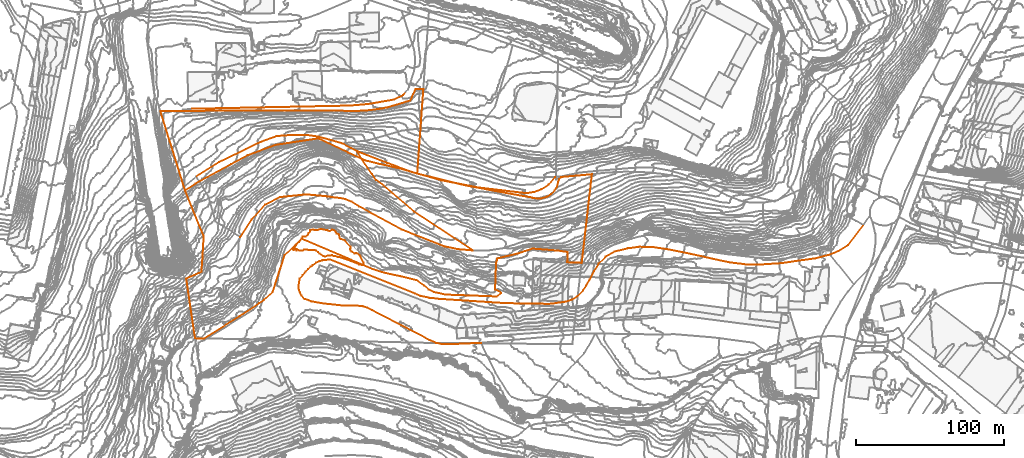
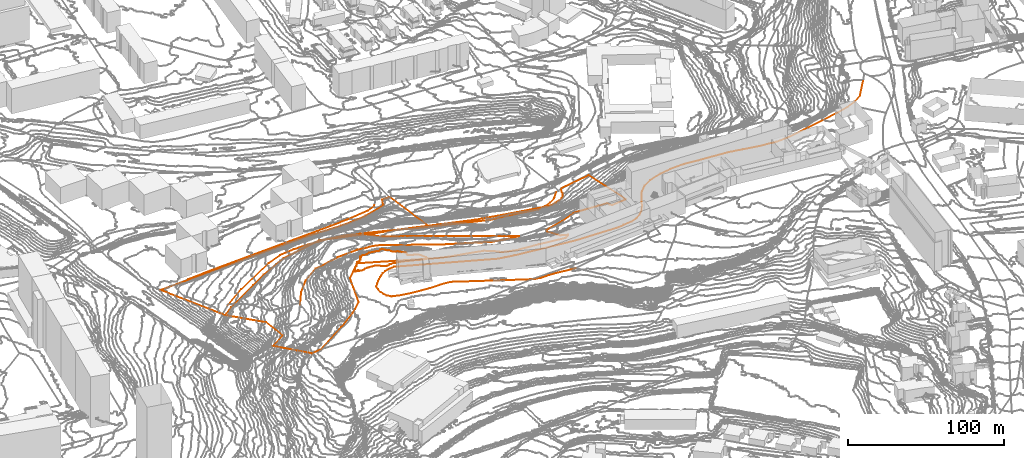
# Not in any storey, part 206 of 419: 11 proxies.
"""IFC2X3 model written with IfcOpenShell, lengths in metres."""

from ifc_helpers import new_model, entity, si_unit, frame, origin_with_axes, place, context, subcontext, project, element, save


model = new_model("IFC2X3")

# Units and contexts
model_context = context("Model", 3, precision=1e-05, world=origin_with_axes())
body_context = subcontext(model_context, "Body", "Model", "MODEL_VIEW")
ifc_project = project(units=[si_unit("AREAUNIT", "SQUARE_METRE"), si_unit("LENGTHUNIT", "METRE")], contexts=[model_context])

# Proxies
proxy_1_placement = place(None, frame((356.4920204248, 395.6976909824, 58.4), z_axis=(0.0, 0.0, 1.0), x_axis=(1.0, 0.0, 0.0)))
element("IfcBuildingElementProxy", 1, at=proxy_1_placement, Name="Route 78", ObjectType="NOTDEFINED", context=body_context, shape_type="GeometricCurveSet", body=[
    entity("IfcGeometricCurveSet", [entity("IfcPolyline", [entity("IfcCartesianPoint", [98.6, -36.5999999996, -1.6]), entity("IfcCartesianPoint", [88.4, -35.7000000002, -1.3]), entity("IfcCartesianPoint", [79.4, -33.8999999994, -1.1]), entity("IfcCartesianPoint", [50.2999999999, -22.3999999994, 0.1]), entity("IfcCartesianPoint", [21.6, -6.7999999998, 0.2]), entity("IfcCartesianPoint", [16.6, -3.7000000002, 0.2]), entity("IfcCartesianPoint", [12.4, -1.8999999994, 0.1]), entity("IfcCartesianPoint", [8.6, -1.0999999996, 0.1]), entity("IfcCartesianPoint", [5.7999999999, -0.8999999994, 0.0]), entity("IfcCartesianPoint", [0.0, 0.0, 0.0])])]),
])
proxy_2_placement = place(None, frame((265.2920204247, 454.8976909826, 31.4), z_axis=(0.0, 0.0, 1.0), x_axis=(1.0, 0.0, 0.0)))
element("IfcBuildingElementProxy", 2, at=proxy_2_placement, Name="Route 170", ObjectType="NOTDEFINED", context=body_context, shape_type="GeometricCurveSet", body=[
    entity("IfcGeometricCurveSet", [entity("IfcPolyline", [entity("IfcCartesianPoint", [143.9, 10.7999999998, 1.6]), entity("IfcCartesianPoint", [142.5, 9.0999999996, 1.8]), entity("IfcCartesianPoint", [136.4, 6.2000000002, 2.2]), entity("IfcCartesianPoint", [119.4, 3.2000000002, 2.9]), entity("IfcCartesianPoint", [106.8, 2.0999999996, 3.1]), entity("IfcCartesianPoint", [16.8, 0.2999999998, 0.8]), entity("IfcCartesianPoint", [0.0, 0.0, 0.0])])]),
])
proxy_3_placement = place(None, frame((297.8920204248, 368.1976909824, 52.9), z_axis=(0.0, 0.0, 1.0), x_axis=(1.0, 0.0, 0.0)))
element("IfcBuildingElementProxy", 3, at=proxy_3_placement, Name="Route 175", ObjectType="NOTDEFINED", context=body_context, shape_type="GeometricCurveSet", body=[
    entity("IfcGeometricCurveSet", [entity("IfcPolyline", [entity("IfcCartesianPoint", [58.6, 27.5, 5.5]), entity("IfcCartesianPoint", [44.6, 28.7999999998, 3.8]), entity("IfcCartesianPoint", [27.0, 27.0, 2.0]), entity("IfcCartesianPoint", [16.7, 21.9000000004, -0.5]), entity("IfcCartesianPoint", [7.6, 11.7000000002, 0.0]), entity("IfcCartesianPoint", [0.0, 0.0, 0.0])])]),
])
proxy_4_placement = place(None, frame((268.1920204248, 409.1976909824, 37.9), z_axis=(0.0, 0.0, 1.0), x_axis=(1.0, 0.0, 0.0)))
element("IfcBuildingElementProxy", 4, at=proxy_4_placement, Name="Route 178", ObjectType="NOTDEFINED", context=body_context, shape_type="GeometricCurveSet", body=[
    entity("IfcGeometricCurveSet", [entity("IfcPolyline", [entity("IfcCartesianPoint", [0.0, 0.0, 0.0]), entity("IfcCartesianPoint", [15.4, 9.7000000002, 1.0]), entity("IfcCartesianPoint", [43.5, 23.2999999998, 3.4]), entity("IfcCartesianPoint", [54.2000000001, 27.2000000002, 3.5]), entity("IfcCartesianPoint", [64.7000000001, 28.0, 3.9]), entity("IfcCartesianPoint", [75.4, 27.7999999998, 4.1]), entity("IfcCartesianPoint", [81.8, 26.9000000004, 4.4]), entity("IfcCartesianPoint", [87.5, 25.5, 5.1]), entity("IfcCartesianPoint", [98.7000000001, 22.2000000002, 6.3])])]),
])
proxy_5_placement = place(None, frame((337.3920204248, 333.3976909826, 69.8), z_axis=(0.0, 0.0, 1.0), x_axis=(1.0, 0.0, 0.0)))
element("IfcBuildingElementProxy", 5, at=proxy_5_placement, Name="Route 181", ObjectType="NOTDEFINED", context=body_context, shape_type="GeometricCurveSet", body=[
    entity("IfcGeometricCurveSet", [entity("IfcPolyline", [entity("IfcCartesianPoint", [381.5, 42.9000000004, 6.2]), entity("IfcCartesianPoint", [371.2, 29.4000000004, 5.8]), entity("IfcCartesianPoint", [364.8999999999, 25.4000000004, 5.5]), entity("IfcCartesianPoint", [358.1, 22.7000000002, 5.5]), entity("IfcCartesianPoint", [348.8999999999, 20.4000000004, 5.3]), entity("IfcCartesianPoint", [325.8999999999, 17.0999999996, 4.2]), entity("IfcCartesianPoint", [311.7, 16.2000000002, 2.4]), entity("IfcCartesianPoint", [302.1, 16.2999999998, 1.8]), entity("IfcCartesianPoint", [291.6, 17.5999999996, 1.7]), entity("IfcCartesianPoint", [279.5, 20.0999999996, 1.5]), entity("IfcCartesianPoint", [270.0, 22.2999999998, 1.3]), entity("IfcCartesianPoint", [249.8999999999, 26.4000000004, -0.6]), entity("IfcCartesianPoint", [239.2, 28.0, -1.0]), entity("IfcCartesianPoint", [230.3999999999, 28.2000000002, -1.6]), entity("IfcCartesianPoint", [222.6, 27.2000000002, -1.9]), entity("IfcCartesianPoint", [213.5, 25.0, -2.4]), entity("IfcCartesianPoint", [207.5, 21.5999999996, -2.5]), entity("IfcCartesianPoint", [202.7999999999, 16.7999999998, -2.5]), entity("IfcCartesianPoint", [199.5, 11.7000000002, -2.5]), entity("IfcCartesianPoint", [196.6, 6.2000000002, -2.5]), entity("IfcCartesianPoint", [194.2999999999, 2.0, -2.5]), entity("IfcCartesianPoint", [192.0, -1.4000000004, -2.5]), entity("IfcCartesianPoint", [188.2999999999, -5.0999999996, -2.5]), entity("IfcCartesianPoint", [184.7999999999, -7.5, -2.5]), entity("IfcCartesianPoint", [180.2999999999, -8.9000000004, -2.5]), entity("IfcCartesianPoint", [174.1, -9.7999999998, -2.5]), entity("IfcCartesianPoint", [169.1, -10.4000000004, -2.5]), entity("IfcCartesianPoint", [139.2999999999, -9.9000000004, -2.2]), entity("IfcCartesianPoint", [94.8999999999, -7.0, -0.3]), entity("IfcCartesianPoint", [88.3999999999, -6.2999999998, 0.0]), entity("IfcCartesianPoint", [82.3999999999, -5.0, 0.0]), entity("IfcCartesianPoint", [78.5, -3.4000000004, 0.1]), entity("IfcCartesianPoint", [21.2999999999, 19.5999999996, 0.4]), entity("IfcCartesianPoint", [16.2999999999, 19.0999999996, 0.4]), entity("IfcCartesianPoint", [14.1, 18.5, 0.2]), entity("IfcCartesianPoint", [11.6, 17.4000000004, 0.1]), entity("IfcCartesianPoint", [9.5, 15.7000000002, 0.0]), entity("IfcCartesianPoint", [8.1, 14.7000000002, 0.0]), entity("IfcCartesianPoint", [6.2, 13.0, 0.0]), entity("IfcCartesianPoint", [4.7, 11.4000000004, 0.0]), entity("IfcCartesianPoint", [2.7, 9.0999999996, 0.0]), entity("IfcCartesianPoint", [0.7, 6.7000000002, 0.0]), entity("IfcCartesianPoint", [0.1, 3.5999999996, 0.0]), entity("IfcCartesianPoint", [0.0, 0.0, 0.0]), entity("IfcCartesianPoint", [0.7999999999, -2.5999999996, -0.2]), entity("IfcCartesianPoint", [1.7999999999, -4.5999999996, -0.5]), entity("IfcCartesianPoint", [3.8999999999, -7.0, -0.5]), entity("IfcCartesianPoint", [8.7999999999, -8.7000000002, -0.5]), entity("IfcCartesianPoint", [15.0, -9.9000000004, -0.5]), entity("IfcCartesianPoint", [29.6, -11.5, -0.4]), entity("IfcCartesianPoint", [37.6, -11.4000000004, -0.4]), entity("IfcCartesianPoint", [43.0, -12.0, -0.3]), entity("IfcCartesianPoint", [46.2, -12.9000000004, -0.3]), entity("IfcCartesianPoint", [49.5, -14.7000000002, -0.3]), entity("IfcCartesianPoint", [88.6, -34.9000000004, 0.0]), entity("IfcCartesianPoint", [92.7999999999, -36.7000000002, 0.0]), entity("IfcCartesianPoint", [96.6, -37.5, 0.0]), entity("IfcCartesianPoint", [100.7999999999, -37.5, 0.0]), entity("IfcCartesianPoint", [105.5, -37.5, 0.0]), entity("IfcCartesianPoint", [123.1, -36.7000000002, -2.2])])]),
])
proxy_6_placement = place(None, frame((376.6920204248, 426.1976909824, 45.5), z_axis=(0.0, 0.0, 1.0), x_axis=(1.0, 0.0, 0.0)))
element("IfcBuildingElementProxy", 6, at=proxy_6_placement, Name="Route 232", ObjectType="NOTDEFINED", context=body_context, shape_type="GeometricCurveSet", body=[
    entity("IfcGeometricCurveSet", [entity("IfcPolyline", [entity("IfcCartesianPoint", [78.4, -67.0999999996, 11.3]), entity("IfcCartesianPoint", [38.6, -40.8999999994, 9.1]), entity("IfcCartesianPoint", [23.5, -27.8999999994, 6.6]), entity("IfcCartesianPoint", [17.9, -23.0999999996, 5.7]), entity("IfcCartesianPoint", [13.0, -19.3999999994, 4.7]), entity("IfcCartesianPoint", [10.4, -15.5999999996, 3.5]), entity("IfcCartesianPoint", [7.4, -11.5, 2.0]), entity("IfcCartesianPoint", [0.0, 0.0, 0.0])])]),
])
proxy_7_placement = place(None, frame((376.6920204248, 426.1976909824, 45.5), z_axis=(0.0, 0.0, 1.0), x_axis=(1.0, 0.0, 0.0)))
element("IfcBuildingElementProxy", 7, at=proxy_7_placement, Name="Route 236", ObjectType="NOTDEFINED", context=body_context, shape_type="GeometricCurveSet", body=[
    entity("IfcGeometricCurveSet", [entity("IfcPolyline", [entity("IfcCartesianPoint", [0.0, 0.0, 0.0]), entity("IfcCartesianPoint", [20.4, -7.8999999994, 0.4]), entity("IfcCartesianPoint", [37.3, -14.2000000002, 0.3]), entity("IfcCartesianPoint", [57.3, -19.7000000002, -0.7]), entity("IfcCartesianPoint", [81.6, -24.5, -3.0]), entity("IfcCartesianPoint", [114.2000000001, -28.3999999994, -3.9]), entity("IfcCartesianPoint", [119.9, -27.5999999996, -3.8]), entity("IfcCartesianPoint", [124.8, -25.7000000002, -3.8]), entity("IfcCartesianPoint", [129.5, -22.7000000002, -3.9]), entity("IfcCartesianPoint", [133.8, -17.3999999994, -3.9])])]),
])
proxy_8_placement = place(None, frame((366.8920204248, 431.3976909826, 44.2), z_axis=(0.0, 0.0, 1.0), x_axis=(1.0, 0.0, 0.0)))
element("IfcBuildingElementProxy", 8, at=proxy_8_placement, Name="Route 237", ObjectType="NOTDEFINED", context=body_context, shape_type="GeometricCurveSet", body=[
    entity("IfcGeometricCurveSet", [entity("IfcPolyline", [entity("IfcCartesianPoint", [0.0, 0.0, 0.0]), entity("IfcCartesianPoint", [6.0, -3.2000000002, 0.7]), entity("IfcCartesianPoint", [9.7999999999, -5.2000000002, 1.3])])]),
])
proxy_9_placement = place(None, frame((243.9320204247, 453.417690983, 31.348064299), z_axis=(0.0, 0.0, 1.0), x_axis=(1.0, 0.0, 0.0)))
element("IfcBuildingElementProxy", 9, at=proxy_9_placement, Name="Cadastre 375", ObjectType="NOTDEFINED", context=body_context, shape_type="GeometricCurveSet", body=[
    entity("IfcGeometricCurveSet", [entity("IfcPolyline", [entity("IfcCartesianPoint", [16.76, -53.7200000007, 7.0146347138]), entity("IfcCartesianPoint", [15.7300000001, -50.8600000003, 6.700484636]), entity("IfcCartesianPoint", [0.0, 0.0, 0.0]), entity("IfcCartesianPoint", [109.6800000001, 0.2399999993, 3.7872557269]), entity("IfcCartesianPoint", [132.12, -0.04, 3.4042435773]), entity("IfcCartesianPoint", [133.63, -0.0200000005, 3.4604369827]), entity("IfcCartesianPoint", [141.04, 0.4499999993, 3.3767638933]), entity("IfcCartesianPoint", [148.39, 1.4399999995, 3.1108191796]), entity("IfcCartesianPoint", [153.1900000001, 2.3599999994, 3.0010125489]), entity("IfcCartesianPoint", [168.8400000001, 7.0499999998, 2.81991276]), entity("IfcCartesianPoint", [172.38, 14.6099999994, 1.3601841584]), entity("IfcCartesianPoint", [177.6900000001, 14.6599999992, 1.5516879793]), entity("IfcCartesianPoint", [173.55, -42.3700000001, 15.0433162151]), entity("IfcCartesianPoint", [162.04, -38.9900000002, 15.3216626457]), entity("IfcCartesianPoint", [148.01, -35.8600000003, 15.9614156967]), entity("IfcCartesianPoint", [137.8400000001, -33.3200000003, 15.9963964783]), entity("IfcCartesianPoint", [126.67, -28.0600000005, 15.1356748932]), entity("IfcCartesianPoint", [106.62, -18.5800000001, 12.7257596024]), entity("IfcCartesianPoint", [77.9300000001, -22.9700000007, 11.4287765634]), entity("IfcCartesianPoint", [58.8, -29.96, 9.566831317]), entity("IfcCartesianPoint", [47.79, -35.96, 8.9849008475]), entity("IfcCartesianPoint", [23.9400000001, -48.9700000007, 7.8775551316]), entity("IfcCartesianPoint", [16.76, -53.7200000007, 7.0146347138])])]),
])
proxy_10_placement = place(None, frame((260.6920204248, 399.6976909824, 38.3626990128), z_axis=(0.0, 0.0, 1.0), x_axis=(1.0, 0.0, 0.0)))
element("IfcBuildingElementProxy", 10, at=proxy_10_placement, Name="Cadastre 379", ObjectType="NOTDEFINED", context=body_context, shape_type="GeometricCurveSet", body=[
    entity("IfcGeometricCurveSet", [entity("IfcPolyline", [entity("IfcCartesianPoint", [6.67, -99.9399999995, 28.4080754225]), entity("IfcCartesianPoint", [0.7100000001, -59.5899999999, 11.9051589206]), entity("IfcCartesianPoint", [10.9, -54.9399999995, 13.5277012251]), entity("IfcCartesianPoint", [11.74, -44.3399999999, 11.359188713]), entity("IfcCartesianPoint", [12.4700000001, -31.0099999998, 8.8750418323]), entity("IfcCartesianPoint", [0.0, 0.0, 0.0]), entity("IfcCartesianPoint", [7.1800000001, 4.75, 0.8629204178]), entity("IfcCartesianPoint", [31.03, 17.7600000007, 1.9702661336]), entity("IfcCartesianPoint", [42.04, 23.7600000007, 2.5521966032]), entity("IfcCartesianPoint", [61.17, 30.75, 4.4141418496]), entity("IfcCartesianPoint", [89.86, 35.1400000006, 5.7111248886]), entity("IfcCartesianPoint", [109.91, 25.6600000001, 8.1210401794]), entity("IfcCartesianPoint", [121.0800000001, 20.4000000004, 8.9817617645]), entity("IfcCartesianPoint", [131.25, 17.8600000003, 8.9467809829]), entity("IfcCartesianPoint", [145.28, 14.7300000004, 8.3070279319]), entity("IfcCartesianPoint", [156.79, 11.3500000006, 8.0286815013]), entity("IfcCartesianPoint", [188.78, 3.4500000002, 6.6732000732]), entity("IfcCartesianPoint", [219.17, -2.2199999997, 6.057221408]), entity("IfcCartesianPoint", [234.25, -4.8399999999, 5.7186209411]), entity("IfcCartesianPoint", [234.8300000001, -5.0199999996, 5.7468700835]), entity("IfcCartesianPoint", [238.1000000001, -5.5599999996, 6.156861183]), entity("IfcCartesianPoint", [241.38, -5.3099999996, 6.8623813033]), entity("IfcCartesianPoint", [244.5, -4.2699999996, 6.72098027]), entity("IfcCartesianPoint", [247.29, -2.5099999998, 6.4015699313]), entity("IfcCartesianPoint", [249.5700000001, -0.1299999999, 6.1279292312]), entity("IfcCartesianPoint", [251.2200000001, 2.7200000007, 5.6243255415]), entity("IfcCartesianPoint", [252.13, 5.8900000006, 4.9055520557]), entity("IfcCartesianPoint", [252.8100000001, 7.6299999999, 4.9217276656]), entity("IfcCartesianPoint", [254.0800000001, 9.0600000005, 4.9522042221]), entity("IfcCartesianPoint", [274.8300000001, 10.9000000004, 6.4955615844]), entity("IfcCartesianPoint", [267.9500000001, -48.9699999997, 26.5220671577]), entity("IfcCartesianPoint", [258.17, -48.5499999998, 25.1294013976]), entity("IfcCartesianPoint", [258.3300000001, -44.9499999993, 23.1715456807]), entity("IfcCartesianPoint", [258.4600000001, -41.7199999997, 22.5448929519]), entity("IfcCartesianPoint", [257.14, -41.46, 22.3671720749]), entity("IfcCartesianPoint", [252.17, -40.7299999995, 21.8999099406]), entity("IfcCartesianPoint", [234.7300000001, -39.3399999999, 21.5946360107]), entity("IfcCartesianPoint", [224.55, -42.6200000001, 20.7096217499]), entity("IfcCartesianPoint", [210.92, -46.0299999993, 20.7268842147]), entity("IfcCartesianPoint", [210.0800000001, -49.1200000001, 21.184321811]), entity("IfcCartesianPoint", [209.4300000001, -66.8899999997, 29.6262830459]), entity("IfcCartesianPoint", [213.6000000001, -69.2199999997, 29.9750189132]), entity("IfcCartesianPoint", [213.5600000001, -69.46, 29.9823312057]), entity("IfcCartesianPoint", [210.53, -71.6799999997, 30.2330538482]), entity("IfcCartesianPoint", [191.2000000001, -70.9899999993, 31.5091422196]), entity("IfcCartesianPoint", [175.75, -70.4100000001, 32.2142628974]), entity("IfcCartesianPoint", [168.1900000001, -68.7199999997, 32.3192749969]), entity("IfcCartesianPoint", [164.5600000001, -66.9699999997, 32.4521880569]), entity("IfcCartesianPoint", [161.49, -64.3599999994, 32.5237996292]), entity("IfcCartesianPoint", [156.2300000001, -60.71, 32.4346675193]), entity("IfcCartesianPoint", [145.3, -57.9699999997, 32.4626223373]), entity("IfcCartesianPoint", [134.3200000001, -55.6699999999, 32.5666087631]), entity("IfcCartesianPoint", [126.6900000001, -53.1699999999, 32.5175895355]), entity("IfcCartesianPoint", [78.7000000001, -32.6799999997, 32.767501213]), entity("IfcCartesianPoint", [67.15, -43.7299999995, 32.0584493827]), entity("IfcCartesianPoint", [64.02, -53.2999999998, 31.7113036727]), entity("IfcCartesianPoint", [59.0700000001, -68.7599999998, 31.4164001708]), entity("IfcCartesianPoint", [53.4700000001, -73.7999999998, 30.9677518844]), entity("IfcCartesianPoint", [50.05, -76.2699999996, 30.2705076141]), entity("IfcCartesianPoint", [36.77, -84.9299999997, 29.1732671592]), entity("IfcCartesianPoint", [12.8, -100.0499999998, 29.4555501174]), entity("IfcCartesianPoint", [6.67, -99.9399999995, 28.4080754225])])]),
])
proxy_11_placement = place(None, frame((333.7586870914, 359.8976909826, 71.0), z_axis=(0.0, 0.0, 1.0), x_axis=(1.0, 0.0, 0.0)))
element("IfcBuildingElementProxy", 11, at=proxy_11_placement, Name="Contour 71.0 m", ObjectType="NOTDEFINED", context=body_context, shape_type="GeometricCurveSet", body=[
    entity("IfcGeometricCurveSet", [entity("IfcPolyline", [entity("IfcCartesianPoint", [47.3833428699, -10.0, 0.0]), entity("IfcCartesianPoint", [47.3333333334, -10.3334181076, 0.0]), entity("IfcCartesianPoint", [46.3333333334, -10.6111134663, 0.0]), entity("IfcCartesianPoint", [44.3333333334, -10.1764653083, 0.0]), entity("IfcCartesianPoint", [37.3333333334, -7.3846244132, 0.0]), entity("IfcCartesianPoint", [31.3333333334, -5.333333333, 0.0]), entity("IfcCartesianPoint", [30.3333333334, -5.3332909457, 0.0]), entity("IfcCartesianPoint", [28.3333333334, -4.5555649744, 0.0]), entity("IfcCartesianPoint", [27.3333333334, -4.60003052, 0.0]), entity("IfcCartesianPoint", [26.3333333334, -4.0000199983, 0.0]), entity("IfcCartesianPoint", [24.3333333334, -4.285667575, 0.0]), entity("IfcCartesianPoint", [23.3333333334, -4.1000228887, 0.0]), entity("IfcCartesianPoint", [21.3333333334, -4.8666836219, 0.0]), entity("IfcCartesianPoint", [20.3333333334, -4.7333299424, 0.0]), entity("IfcCartesianPoint", [17.6666666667, -3.0, 0.0]), entity("IfcCartesianPoint", [16.7777683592, -2.0, 0.0]), entity("IfcCartesianPoint", [15.3333333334, -1.0000249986, 0.0]), entity("IfcCartesianPoint", [14.3333333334, -0.6667090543, 0.0]), entity("IfcCartesianPoint", [12.3333333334, -0.39996948, 0.0]), entity("IfcCartesianPoint", [10.3333333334, -0.5000250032, 0.0]), entity("IfcCartesianPoint", [9.3333333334, -0.2000305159, 0.0]), entity("IfcCartesianPoint", [7.3333333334, -0.3332909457, 0.0]), entity("IfcCartesianPoint", [6.3333333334, -0.7999694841, 0.0]), entity("IfcCartesianPoint", [4.3333333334, -1.0000142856, 0.0]), entity("IfcCartesianPoint", [2.3333333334, 0.2500476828, 0.0]), entity("IfcCartesianPoint", [1.9999152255, 0.0, 0.0]), entity("IfcCartesianPoint", [2.3333333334, -1.0000249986, 0.0]), entity("IfcCartesianPoint", [1.3333333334, -0.2221939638, 0.0]), entity("IfcCartesianPoint", [0.3333333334, -0.3636426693, 0.0]), entity("IfcCartesianPoint", [0.0, 0.0, 0.0]), entity("IfcCartesianPoint", [2.3333333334, 3.6667090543, 0.0]), entity("IfcCartesianPoint", [3.9333180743, 5.0, 0.0]), entity("IfcCartesianPoint", [6.3333333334, 8.5000124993, 0.0]), entity("IfcCartesianPoint", [8.3333333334, 8.6250238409, 0.0]), entity("IfcCartesianPoint", [9.8333166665, 10.0, 0.0]), entity("IfcCartesianPoint", [10.2424053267, 11.0, 0.0]), entity("IfcCartesianPoint", [11.3333222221, 12.0, 0.0]), entity("IfcCartesianPoint", [11.3333333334, 13.0000062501, 0.0]), entity("IfcCartesianPoint", [13.3333333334, 13.5000099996, 0.0]), entity("IfcCartesianPoint", [14.3333333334, 13.0434710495, 0.0]), entity("IfcCartesianPoint", [16.3333333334, 13.1290362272, 0.0]), entity("IfcCartesianPoint", [18.3333333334, 13.7187611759, 0.0]), entity("IfcCartesianPoint", [23.3333333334, 12.7727146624, 0.0]), entity("IfcCartesianPoint", [24.3333333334, 12.1764653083, 0.0]), entity("IfcCartesianPoint", [26.3333333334, 13.2105305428, 0.0]), entity("IfcCartesianPoint", [27.3333333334, 13.0086225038, 0.0]), entity("IfcCartesianPoint", [28.6190488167, 12.0, 0.0]), entity("IfcCartesianPoint", [29.3333333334, 10.6888881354, 0.0]), entity("IfcCartesianPoint", [30.9555570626, 10.0, 0.0]), entity("IfcCartesianPoint", [31.2999932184, 8.0, 0.0]), entity("IfcCartesianPoint", [31.9333333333, 7.0, 0.0]), entity("IfcCartesianPoint", [34.893330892, 6.0, 0.0]), entity("IfcCartesianPoint", [38.6666719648, 2.0, 0.0]), entity("IfcCartesianPoint", [38.8133290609, 1.0, 0.0]), entity("IfcCartesianPoint", [38.4285740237, 0.0, 0.0]), entity("IfcCartesianPoint", [38.7708318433, -1.0, 0.0]), entity("IfcCartesianPoint", [39.3333333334, -1.6428610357, 0.0]), entity("IfcCartesianPoint", [41.3333333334, -2.7894715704, 0.0]), entity("IfcCartesianPoint", [42.3333333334, -2.5128134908, 0.0]), entity("IfcCartesianPoint", [43.3333333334, -2.9400024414, 0.0]), entity("IfcCartesianPoint", [44.6458343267, -4.0, 0.0]), entity("IfcCartesianPoint", [45.4242392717, -5.0, 0.0]), entity("IfcCartesianPoint", [47.4333307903, -9.0, 0.0]), entity("IfcCartesianPoint", [47.3833428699, -10.0, 0.0])])]),
])

save(model, "model.ifc")
